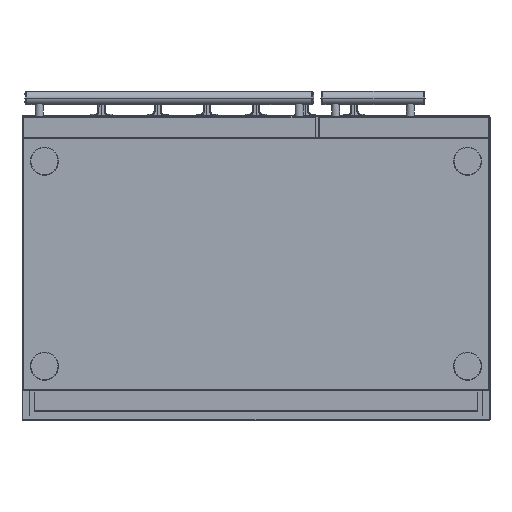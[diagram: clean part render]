
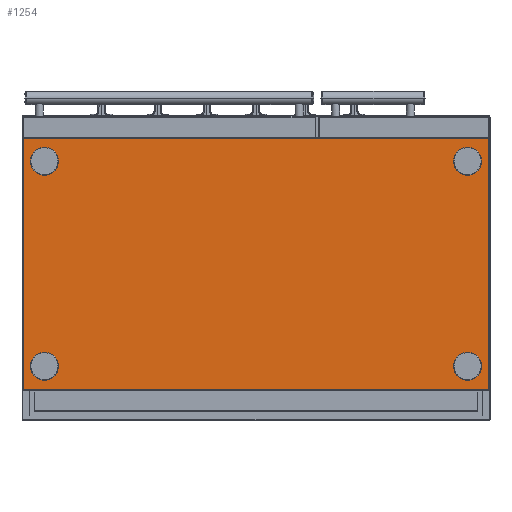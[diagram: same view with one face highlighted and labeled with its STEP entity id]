
A CAD part, front view. The second image highlights one B-rep face of the part: STEP entity #1254.
In plain terms, the highlighted planar face has unit normal (0, -1, 0).
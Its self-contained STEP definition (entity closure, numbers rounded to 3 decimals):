
#46=CARTESIAN_POINT('',(452.,-352.5,-219.));
#47=DIRECTION('',(0.,-1.,0.));
#48=DIRECTION('',(1.,0.,0.));
#49=AXIS2_PLACEMENT_3D('',#46,#47,#48);
#51=CARTESIAN_POINT('',(452.,-352.5,-219.));
#52=DIRECTION('',(0.,-1.,0.));
#53=DIRECTION('',(-1.,0.,0.));
#54=AXIS2_PLACEMENT_3D('',#51,#52,#53);
#56=CARTESIAN_POINT('',(452.,-352.5,219.));
#57=DIRECTION('',(0.,-1.,0.));
#58=DIRECTION('',(1.,0.,0.));
#59=AXIS2_PLACEMENT_3D('',#56,#57,#58);
#61=CARTESIAN_POINT('',(452.,-352.5,219.));
#62=DIRECTION('',(0.,-1.,0.));
#63=DIRECTION('',(-1.,0.,0.));
#64=AXIS2_PLACEMENT_3D('',#61,#62,#63);
#66=CARTESIAN_POINT('',(-452.,-352.5,-219.));
#67=DIRECTION('',(0.,1.,0.));
#68=DIRECTION('',(-1.,0.,0.));
#69=AXIS2_PLACEMENT_3D('',#66,#67,#68);
#71=CARTESIAN_POINT('',(-452.,-352.5,-219.));
#72=DIRECTION('',(0.,1.,0.));
#73=DIRECTION('',(1.,0.,0.));
#74=AXIS2_PLACEMENT_3D('',#71,#72,#73);
#76=CARTESIAN_POINT('',(-452.,-352.5,219.));
#77=DIRECTION('',(0.,1.,0.));
#78=DIRECTION('',(-1.,0.,0.));
#79=AXIS2_PLACEMENT_3D('',#76,#77,#78);
#81=CARTESIAN_POINT('',(-452.,-352.5,219.));
#82=DIRECTION('',(0.,1.,0.));
#83=DIRECTION('',(1.,0.,0.));
#84=AXIS2_PLACEMENT_3D('',#81,#82,#83);
#86=DIRECTION('',(0.,0.,-1.));
#87=VECTOR('',#86,536.4);
#88=CARTESIAN_POINT('',(497.2,-352.5,268.2));
#89=LINE('',#88,#87);
#90=DIRECTION('',(-1.,0.,0.));
#91=VECTOR('',#90,994.4);
#92=CARTESIAN_POINT('',(497.2,-352.5,-268.2));
#93=LINE('',#92,#91);
#94=DIRECTION('',(0.,0.,1.));
#95=VECTOR('',#94,536.4);
#96=CARTESIAN_POINT('',(-497.2,-352.5,-268.2));
#97=LINE('',#96,#95);
#98=DIRECTION('',(-1.,0.,0.));
#99=VECTOR('',#98,994.4);
#100=CARTESIAN_POINT('',(497.2,-352.5,268.2));
#101=LINE('',#100,#99);
#960=CARTESIAN_POINT('',(482.,-352.5,-219.));
#961=CARTESIAN_POINT('',(422.,-352.5,-219.));
#962=VERTEX_POINT('',#960);
#963=VERTEX_POINT('',#961);
#992=CARTESIAN_POINT('',(497.2,-352.5,268.2));
#993=CARTESIAN_POINT('',(497.2,-352.5,-268.2));
#994=VERTEX_POINT('',#992);
#995=VERTEX_POINT('',#993);
#998=CARTESIAN_POINT('',(-497.2,-352.5,268.2));
#999=VERTEX_POINT('',#998);
#1002=CARTESIAN_POINT('',(-497.2,-352.5,-268.2));
#1003=VERTEX_POINT('',#1002);
#1060=CARTESIAN_POINT('',(482.,-352.5,219.));
#1061=CARTESIAN_POINT('',(422.,-352.5,219.));
#1062=VERTEX_POINT('',#1060);
#1063=VERTEX_POINT('',#1061);
#1068=CARTESIAN_POINT('',(-482.,-352.5,-219.));
#1069=VERTEX_POINT('',#1068);
#1070=CARTESIAN_POINT('',(-422.,-352.5,-219.));
#1071=VERTEX_POINT('',#1070);
#1076=CARTESIAN_POINT('',(-482.,-352.5,219.));
#1077=VERTEX_POINT('',#1076);
#1078=CARTESIAN_POINT('',(-422.,-352.5,219.));
#1079=VERTEX_POINT('',#1078);
#1216=CARTESIAN_POINT('',(-499.,-352.5,270.));
#1217=DIRECTION('',(0.,-1.,0.));
#1218=DIRECTION('',(0.,0.,-1.));
#1219=AXIS2_PLACEMENT_3D('',#1216,#1217,#1218);
#1220=PLANE('',#1219);
#1222=ORIENTED_EDGE('',*,*,#1221,.T.);
#1224=ORIENTED_EDGE('',*,*,#1223,.T.);
#1226=ORIENTED_EDGE('',*,*,#1225,.T.);
#1227=ORIENTED_EDGE('',*,*,#1205,.F.);
#1228=EDGE_LOOP('',(#1222,#1224,#1226,#1227));
#1229=FACE_OUTER_BOUND('',#1228,.F.);
#1231=ORIENTED_EDGE('',*,*,#1230,.T.);
#1233=ORIENTED_EDGE('',*,*,#1232,.T.);
#1234=EDGE_LOOP('',(#1231,#1233));
#1235=FACE_BOUND('',#1234,.F.);
#1237=ORIENTED_EDGE('',*,*,#1236,.F.);
#1239=ORIENTED_EDGE('',*,*,#1238,.F.);
#1240=EDGE_LOOP('',(#1237,#1239));
#1241=FACE_BOUND('',#1240,.F.);
#1243=ORIENTED_EDGE('',*,*,#1242,.F.);
#1245=ORIENTED_EDGE('',*,*,#1244,.F.);
#1246=EDGE_LOOP('',(#1243,#1245));
#1247=FACE_BOUND('',#1246,.F.);
#1249=ORIENTED_EDGE('',*,*,#1248,.T.);
#1251=ORIENTED_EDGE('',*,*,#1250,.T.);
#1252=EDGE_LOOP('',(#1249,#1251));
#1253=FACE_BOUND('',#1252,.F.);
#50=CIRCLE('',#49,30.);
#55=CIRCLE('',#54,30.);
#60=CIRCLE('',#59,30.);
#65=CIRCLE('',#64,30.);
#70=CIRCLE('',#69,30.);
#75=CIRCLE('',#74,30.);
#80=CIRCLE('',#79,30.);
#85=CIRCLE('',#84,30.);
#1205=EDGE_CURVE('',#994,#999,#101,.T.);
#1221=EDGE_CURVE('',#994,#995,#89,.T.);
#1223=EDGE_CURVE('',#995,#1003,#93,.T.);
#1225=EDGE_CURVE('',#1003,#999,#97,.T.);
#1230=EDGE_CURVE('',#1062,#1063,#60,.T.);
#1232=EDGE_CURVE('',#1063,#1062,#65,.T.);
#1236=EDGE_CURVE('',#1069,#1071,#70,.T.);
#1238=EDGE_CURVE('',#1071,#1069,#75,.T.);
#1242=EDGE_CURVE('',#1077,#1079,#80,.T.);
#1244=EDGE_CURVE('',#1079,#1077,#85,.T.);
#1248=EDGE_CURVE('',#962,#963,#50,.T.);
#1250=EDGE_CURVE('',#963,#962,#55,.T.);
#1254=ADVANCED_FACE('',(#1229,#1235,#1241,#1247,#1253),#1220,.T.);
